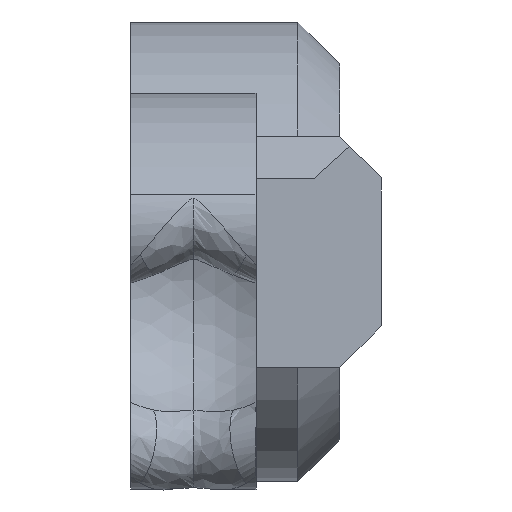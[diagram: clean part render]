
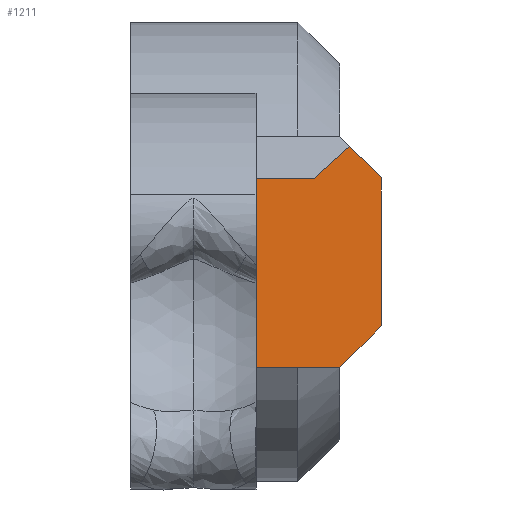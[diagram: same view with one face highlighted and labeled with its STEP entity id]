
A CAD part, front view. The second image highlights one B-rep face of the part: STEP entity #1211.
In plain terms, the highlighted planar face has unit normal (0.724, -0.69, 0).
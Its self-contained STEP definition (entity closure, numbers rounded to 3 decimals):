
#2 = ORIENTED_EDGE ( 'NONE', *, *, #1247, .T. ) ;
#58 = CARTESIAN_POINT ( 'NONE',  ( 22., -51.34, -16.37 ) ) ;
#61 = DIRECTION ( 'NONE',  ( 0.69, 0.724, 0. ) ) ;
#68 = VECTOR ( 'NONE', #1650, 1000. ) ;
#87 = LINE ( 'NONE', #1071, #567 ) ;
#92 = CARTESIAN_POINT ( 'NONE',  ( 21., -52.39, -11.832 ) ) ;
#185 = EDGE_CURVE ( 'NONE', #875, #1204, #850, .T. ) ;
#204 = VERTEX_POINT ( 'NONE', #378 ) ;
#229 = VECTOR ( 'NONE', #1138, 1000. ) ;
#232 = VECTOR ( 'NONE', #1107, 1000. ) ;
#252 = VERTEX_POINT ( 'NONE', #1847 ) ;
#307 = LINE ( 'NONE', #459, #232 ) ;
#355 = CARTESIAN_POINT ( 'NONE',  ( 27.343, -45.73, -13.027 ) ) ;
#378 = CARTESIAN_POINT ( 'NONE',  ( 25., -48.19, -15.37 ) ) ;
#443 = CARTESIAN_POINT ( 'NONE',  ( 25., -48.19, -8.1 ) ) ;
#451 = FACE_OUTER_BOUND ( 'NONE', #1697, .T. ) ;
#459 = CARTESIAN_POINT ( 'NONE',  ( 22., -51.34, -12.832 ) ) ;
#474 = ORIENTED_EDGE ( 'NONE', *, *, #548, .T. ) ;
#477 = EDGE_CURVE ( 'NONE', #1204, #636, #1474, .T. ) ;
#493 = VERTEX_POINT ( 'NONE', #58 ) ;
#537 = ORIENTED_EDGE ( 'NONE', *, *, #185, .F. ) ;
#548 = EDGE_CURVE ( 'NONE', #204, #712, #838, .T. ) ;
#567 = VECTOR ( 'NONE', #1684, 1000. ) ;
#577 = EDGE_CURVE ( 'NONE', #493, #252, #1770, .T. ) ;
#613 = EDGE_CURVE ( 'NONE', #204, #1034, #1973, .T. ) ;
#636 = VERTEX_POINT ( 'NONE', #825 ) ;
#691 = DIRECTION ( 'NONE',  ( 0., 0., 1. ) ) ;
#699 = VECTOR ( 'NONE', #826, 1000. ) ;
#712 = VERTEX_POINT ( 'NONE', #1248 ) ;
#825 = CARTESIAN_POINT ( 'NONE',  ( 24.243, -48.985, -11.073 ) ) ;
#826 = DIRECTION ( 'NONE',  ( 0.69, 0.724, 0. ) ) ;
#838 = LINE ( 'NONE', #982, #1883 ) ;
#850 = LINE ( 'NONE', #1485, #1983 ) ;
#875 = VERTEX_POINT ( 'NONE', #92 ) ;
#898 = VECTOR ( 'NONE', #1624, 1000. ) ;
#944 = LINE ( 'NONE', #1298, #699 ) ;
#976 = CARTESIAN_POINT ( 'NONE',  ( 24., -49.24, -16.37 ) ) ;
#982 = CARTESIAN_POINT ( 'NONE',  ( 25., -48.19, -14.8 ) ) ;
#1034 = VERTEX_POINT ( 'NONE', #976 ) ;
#1071 = CARTESIAN_POINT ( 'NONE',  ( 23.798, -49.452, -10.628 ) ) ;
#1073 = DIRECTION ( 'NONE',  ( 0.724, -0.69, 0. ) ) ;
#1082 = DIRECTION ( 'NONE',  ( 0.69, 0.724, 0. ) ) ;
#1107 = DIRECTION ( 'NONE',  ( -0.568, -0.596, 0.568 ) ) ;
#1128 = ORIENTED_EDGE ( 'NONE', *, *, #1293, .F. ) ;
#1138 = DIRECTION ( 'NONE',  ( 0., 0., 1. ) ) ;
#1204 = VERTEX_POINT ( 'NONE', #1232 ) ;
#1211 = ADVANCED_FACE ( 'NONE', ( #451 ), #2034, .T. ) ;
#1232 = CARTESIAN_POINT ( 'NONE',  ( 23.402, -49.868, -11.832 ) ) ;
#1247 = EDGE_CURVE ( 'NONE', #493, #1034, #944, .T. ) ;
#1248 = CARTESIAN_POINT ( 'NONE',  ( 25., -48.19, -11.83 ) ) ;
#1251 = ORIENTED_EDGE ( 'NONE', *, *, #577, .F. ) ;
#1273 = ORIENTED_EDGE ( 'NONE', *, *, #613, .F. ) ;
#1293 = EDGE_CURVE ( 'NONE', #252, #875, #307, .T. ) ;
#1298 = CARTESIAN_POINT ( 'NONE',  ( 25., -48.19, -16.37 ) ) ;
#1329 = CARTESIAN_POINT ( 'NONE',  ( 22., -51.34, -8.1 ) ) ;
#1435 = AXIS2_PLACEMENT_3D ( 'NONE', #443, #1073, #1082 ) ;
#1474 = LINE ( 'NONE', #1642, #68 ) ;
#1485 = CARTESIAN_POINT ( 'NONE',  ( 18.248, -55.279, -11.832 ) ) ;
#1544 = ORIENTED_EDGE ( 'NONE', *, *, #1840, .F. ) ;
#1624 = DIRECTION ( 'NONE',  ( -0.568, -0.596, -0.568 ) ) ;
#1642 = CARTESIAN_POINT ( 'NONE',  ( 23.95, -49.293, -11.338 ) ) ;
#1650 = DIRECTION ( 'NONE',  ( 0.586, 0.615, 0.528 ) ) ;
#1684 = DIRECTION ( 'NONE',  ( 0.568, 0.596, -0.568 ) ) ;
#1697 = EDGE_LOOP ( 'NONE', ( #1736, #537, #1128, #1251, #2, #1273, #474, #1544 ) ) ;
#1736 = ORIENTED_EDGE ( 'NONE', *, *, #477, .F. ) ;
#1770 = LINE ( 'NONE', #1329, #229 ) ;
#1840 = EDGE_CURVE ( 'NONE', #636, #712, #87, .T. ) ;
#1847 = CARTESIAN_POINT ( 'NONE',  ( 22., -51.34, -12.832 ) ) ;
#1883 = VECTOR ( 'NONE', #691, 1000. ) ;
#1973 = LINE ( 'NONE', #355, #898 ) ;
#1983 = VECTOR ( 'NONE', #61, 1000. ) ;
#2034 = PLANE ( 'NONE',  #1435 ) ;
